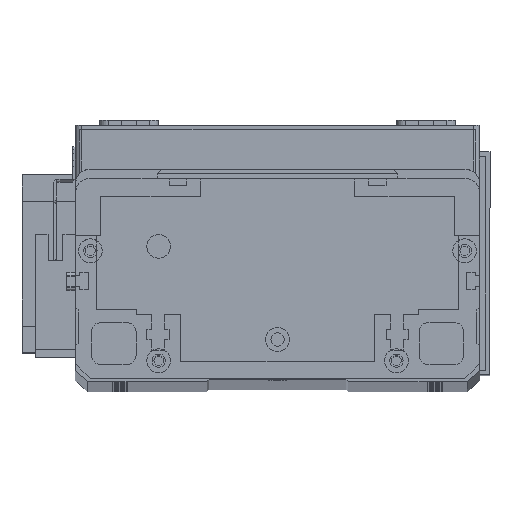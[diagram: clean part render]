
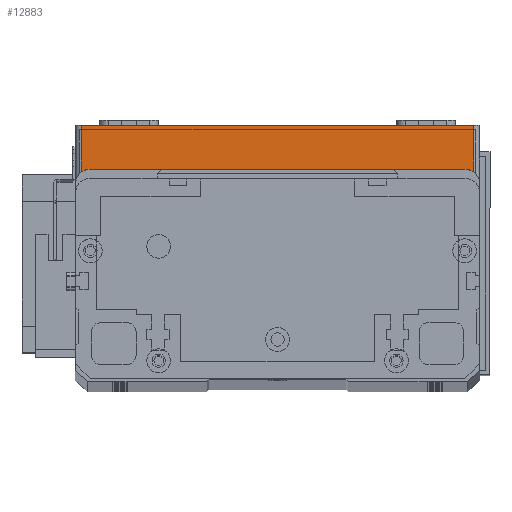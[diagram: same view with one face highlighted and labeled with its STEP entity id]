
A CAD part, top view. The second image highlights one B-rep face of the part: STEP entity #12883.
In plain terms, the highlighted planar face has unit normal (0, 0, 1) as drawn and (0, -1, 0) by its records, which use the part's own axes.
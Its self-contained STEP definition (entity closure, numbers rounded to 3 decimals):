
#1060 = CARTESIAN_POINT ( 'NONE',  ( 2., 0., 19.5 ) ) ;
#1475 = LINE ( 'NONE', #1060, #19268 ) ;
#2171 = DIRECTION ( 'NONE',  ( 1., 0., 0. ) ) ;
#2239 = EDGE_CURVE ( 'NONE', #24881, #13866, #11905, .T. ) ;
#2739 = ORIENTED_EDGE ( 'NONE', *, *, #8784, .F. ) ;
#3263 = CARTESIAN_POINT ( 'NONE',  ( 0., 0., 19.5 ) ) ;
#3566 = FACE_OUTER_BOUND ( 'NONE', #21525, .T. ) ;
#3912 = CARTESIAN_POINT ( 'NONE',  ( 2., 0., 19.5 ) ) ;
#4993 = VECTOR ( 'NONE', #7763, 1000. ) ;
#5594 = DIRECTION ( 'NONE',  ( 0., 0., 1. ) ) ;
#7763 = DIRECTION ( 'NONE',  ( 0., 0., 1. ) ) ;
#7775 = CARTESIAN_POINT ( 'NONE',  ( 0., 0., 0. ) ) ;
#8260 = ORIENTED_EDGE ( 'NONE', *, *, #11735, .T. ) ;
#8784 = EDGE_CURVE ( 'NONE', #27373, #13866, #25848, .T. ) ;
#10130 = CARTESIAN_POINT ( 'NONE',  ( 134., 0., 19.5 ) ) ;
#10150 = CARTESIAN_POINT ( 'NONE',  ( 134., 0., 0. ) ) ;
#10536 = EDGE_CURVE ( 'NONE', #27373, #29336, #1475, .T. ) ;
#11735 = EDGE_CURVE ( 'NONE', #29336, #24881, #22511, .T. ) ;
#11905 = LINE ( 'NONE', #26297, #4993 ) ;
#12476 = AXIS2_PLACEMENT_3D ( 'NONE', #3263, #19495, #5594 ) ;
#12883 = ADVANCED_FACE ( 'NONE', ( #3566 ), #24035, .F. ) ;
#12994 = DIRECTION ( 'NONE',  ( 1., 0., 0. ) ) ;
#13576 = VECTOR ( 'NONE', #2171, 1000. ) ;
#13866 = VERTEX_POINT ( 'NONE', #10130 ) ;
#17200 = CARTESIAN_POINT ( 'NONE',  ( 2., 0., 0. ) ) ;
#17301 = DIRECTION ( 'NONE',  ( 0., 0., -1. ) ) ;
#19268 = VECTOR ( 'NONE', #17301, 1000. ) ;
#19495 = DIRECTION ( 'NONE',  ( 0., 1., 0. ) ) ;
#20756 = CARTESIAN_POINT ( 'NONE',  ( 0., 0., 19.5 ) ) ;
#21525 = EDGE_LOOP ( 'NONE', ( #2739, #28907, #8260, #27918 ) ) ;
#21790 = VECTOR ( 'NONE', #12994, 1000. ) ;
#22511 = LINE ( 'NONE', #7775, #21790 ) ;
#24035 = PLANE ( 'NONE',  #12476 ) ;
#24881 = VERTEX_POINT ( 'NONE', #10150 ) ;
#25848 = LINE ( 'NONE', #20756, #13576 ) ;
#26297 = CARTESIAN_POINT ( 'NONE',  ( 134., 0., 19.5 ) ) ;
#27373 = VERTEX_POINT ( 'NONE', #3912 ) ;
#27918 = ORIENTED_EDGE ( 'NONE', *, *, #2239, .T. ) ;
#28907 = ORIENTED_EDGE ( 'NONE', *, *, #10536, .T. ) ;
#29336 = VERTEX_POINT ( 'NONE', #17200 ) ;
